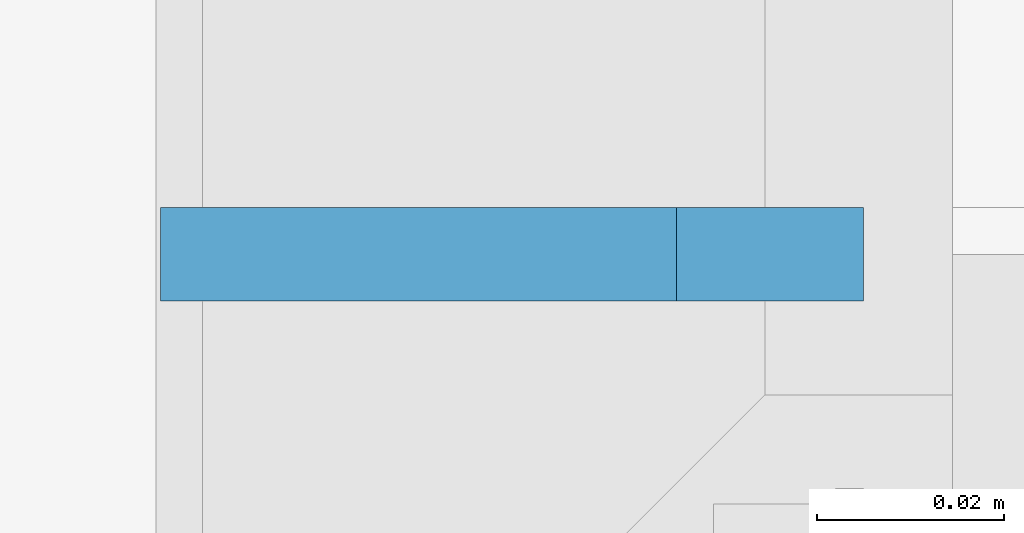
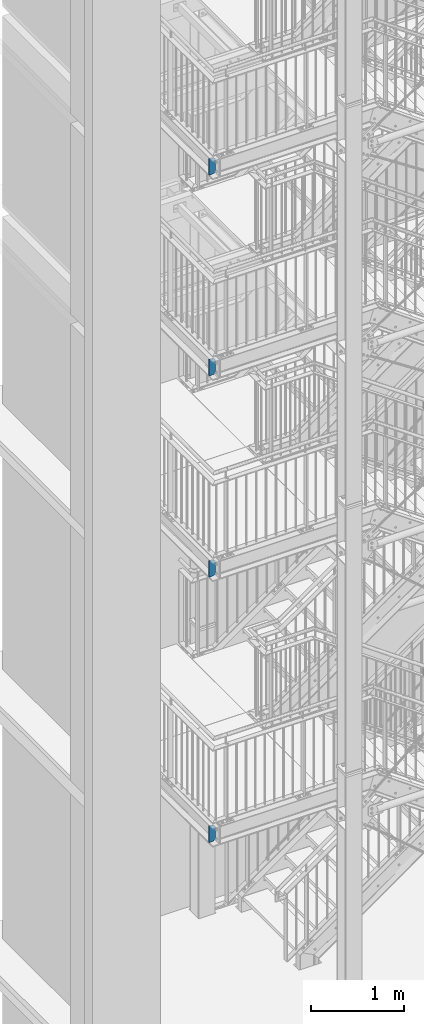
# One storey, part 145 of 825: 4 plates, 8 openings.
"""IFC2X3 building model written with IfcOpenShell, lengths in millimetres."""

from ifc_helpers import new_model, entity, si_unit, converted_unit, frame, origin, origin_with_axes, place, context, project, spatial, polyline, outline, extrude, material, layer, layer_set, element, save


model = new_model("IFC2X3")

# Units and contexts
model_context = context("Model", 3, precision=1e-09, world=origin_with_axes())
ifc_project = project(units=[si_unit("LENGTHUNIT", "METRE", prefix="MILLI"), si_unit("AREAUNIT", "SQUARE_METRE"), si_unit("VOLUMEUNIT", "CUBIC_METRE"), converted_unit("PLANEANGLEUNIT", "DEGREE", entity("IfcPlaneAngleMeasure", 0.01745329), si_unit("PLANEANGLEUNIT", "RADIAN"), dimensions=[0, 0, 0, 0, 0, 0, 0])], contexts=[model_context])

# Site, building, storey
site_placement = place(None, origin_with_axes())
site = spatial("IfcSite", under=ifc_project, at=site_placement, Name="Cnopf'sche Kinderklinik", CompositionType="ELEMENT")
building_placement = place(site_placement, origin_with_axes())
building = spatial("IfcBuilding", under=site, at=building_placement, Name="Struktur 1", CompositionType="ELEMENT")
storey_placement = place(building_placement, origin_with_axes())
storey = spatial("IfcBuildingStorey", under=building, at=storey_placement, Name="Default Storey", CompositionType="ELEMENT", Elevation=0.0)

# Plate, openings
ifc_material = material(Name="S235JR")
ifc_layer = layer(ifc_material, 10.0)
ifc_layer_set = layer_set([ifc_layer], Name="S235JR")
plate_1_placement = place(None, frame((3312.213402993, 4576.736971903, 3829.855161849), z_axis=(0.0, -1.0, 0.0), x_axis=(-0.996815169, 0.0, 0.079746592)))
plate_1 = element("IfcPlate", 1, at=plate_1_placement, inside=storey, material=ifc_layer_set, Name="Stiffener#1", ObjectType="Stiffener#1", context=model_context, shape_type="SweptSolid", body=[
    extrude(outline(polyline([(0.0, 0.0), (75.239625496, 0.0), (57.877952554, 217.017159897), (-16.404697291, 205.05517107), (0.0, 0.0)])), origin_with_axes(), (0.0, 0.0, 1.0), 10.0),
])
opening_1_placement = place(plate_1_placement, frame((0.0, 0.0, -0.01), z_axis=(0.0, 0.0, 1.0), x_axis=(1.0, 0.0, 0.0)))
element("IfcOpeningElement", 2, at=opening_1_placement, cuts=plate_1, ObjectType="Opening", context=model_context, shape_type="SweptSolid", body=[
    extrude(outline(polyline([(-16.404697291, 205.05517107), (-14.809765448, 185.118867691), (3.34092195, 208.23487558), (-16.404697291, 205.05517107)])), origin(), (0.0, 0.0, 1.0), 10.02),
])
opening_2_placement = place(plate_1_placement, frame((0.0, 0.0, -0.01), z_axis=(0.0, 0.0, 1.0), x_axis=(1.0, 0.0, 0.0)))
element("IfcOpeningElement", 3, at=opening_2_placement, cuts=plate_1, ObjectType="Opening", context=model_context, shape_type="SweptSolid", body=[
    extrude(outline(polyline([(0.0, 0.0), (20.0, 0.0), (-1.594931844, 19.936303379), (0.0, 0.0)])), origin(), (0.0, 0.0, 1.0), 10.02),
])

plate_2_placement = place(None, frame((3312.213402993, 4576.736971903, 7302.855161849), z_axis=(0.0, -1.0, 0.0), x_axis=(-0.996815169, 0.0, 0.079746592)))
plate_2 = element("IfcPlate", 4, at=plate_2_placement, inside=storey, material=ifc_layer_set, Name="Stiffener#1", ObjectType="Stiffener#1", context=model_context, shape_type="SweptSolid", body=[
    extrude(outline(polyline([(0.0, 0.0), (75.239625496, 0.0), (57.877952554, 217.017159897), (-16.404697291, 205.05517107), (0.0, 0.0)])), origin_with_axes(), (0.0, 0.0, 1.0), 10.0),
])
opening_3_placement = place(plate_2_placement, frame((0.0, 0.0, -0.01), z_axis=(0.0, 0.0, 1.0), x_axis=(1.0, 0.0, 0.0)))
element("IfcOpeningElement", 5, at=opening_3_placement, cuts=plate_2, ObjectType="Opening", context=model_context, shape_type="SweptSolid", body=[
    extrude(outline(polyline([(-16.404697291, 205.05517107), (-14.809765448, 185.118867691), (3.34092195, 208.23487558), (-16.404697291, 205.05517107)])), origin(), (0.0, 0.0, 1.0), 10.02),
])
opening_4_placement = place(plate_2_placement, frame((0.0, 0.0, -0.01), z_axis=(0.0, 0.0, 1.0), x_axis=(1.0, 0.0, 0.0)))
element("IfcOpeningElement", 6, at=opening_4_placement, cuts=plate_2, ObjectType="Opening", context=model_context, shape_type="SweptSolid", body=[
    extrude(outline(polyline([(0.0, 0.0), (20.0, 0.0), (-1.594931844, 19.936303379), (0.0, 0.0)])), origin(), (0.0, 0.0, 1.0), 10.02),
])

plate_3_placement = place(None, frame((3312.213402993, 4576.736971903, 9934.855161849), z_axis=(0.0, -1.0, 0.0), x_axis=(-0.996815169, 0.0, 0.079746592)))
plate_3 = element("IfcPlate", 7, at=plate_3_placement, inside=storey, material=ifc_layer_set, Name="Stiffener#1", ObjectType="Stiffener#1", context=model_context, shape_type="SweptSolid", body=[
    extrude(outline(polyline([(0.0, 0.0), (75.239625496, 0.0), (57.877952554, 217.017159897), (-16.404697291, 205.05517107), (0.0, 0.0)])), origin_with_axes(), (0.0, 0.0, 1.0), 10.0),
])
opening_5_placement = place(plate_3_placement, frame((0.0, 0.0, -0.01), z_axis=(0.0, 0.0, 1.0), x_axis=(1.0, 0.0, 0.0)))
element("IfcOpeningElement", 8, at=opening_5_placement, cuts=plate_3, ObjectType="Opening", context=model_context, shape_type="SweptSolid", body=[
    extrude(outline(polyline([(-16.404697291, 205.05517107), (-14.809765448, 185.118867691), (3.34092195, 208.23487558), (-16.404697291, 205.05517107)])), origin(), (0.0, 0.0, 1.0), 10.02),
])
opening_6_placement = place(plate_3_placement, frame((0.0, 0.0, -0.01), z_axis=(0.0, 0.0, 1.0), x_axis=(1.0, 0.0, 0.0)))
element("IfcOpeningElement", 9, at=opening_6_placement, cuts=plate_3, ObjectType="Opening", context=model_context, shape_type="SweptSolid", body=[
    extrude(outline(polyline([(0.0, 0.0), (20.0, 0.0), (-1.594931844, 19.936303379), (0.0, 0.0)])), origin(), (0.0, 0.0, 1.0), 10.02),
])

plate_4_placement = place(None, frame((3312.213402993, 4576.736971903, 12561.855161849), z_axis=(0.0, -1.0, 0.0), x_axis=(-0.996815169, 0.0, 0.079746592)))
plate_4 = element("IfcPlate", 10, at=plate_4_placement, inside=storey, material=ifc_layer_set, Name="Stiffener#1", ObjectType="Stiffener#1", context=model_context, shape_type="SweptSolid", body=[
    extrude(outline(polyline([(0.0, 0.0), (75.239625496, 0.0), (57.877952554, 217.017159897), (-16.404697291, 205.05517107), (0.0, 0.0)])), origin_with_axes(), (0.0, 0.0, 1.0), 10.0),
])
opening_7_placement = place(plate_4_placement, frame((0.0, 0.0, -0.01), z_axis=(0.0, 0.0, 1.0), x_axis=(1.0, 0.0, 0.0)))
element("IfcOpeningElement", 11, at=opening_7_placement, cuts=plate_4, ObjectType="Opening", context=model_context, shape_type="SweptSolid", body=[
    extrude(outline(polyline([(-16.404697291, 205.05517107), (-14.809765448, 185.118867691), (3.34092195, 208.23487558), (-16.404697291, 205.05517107)])), origin(), (0.0, 0.0, 1.0), 10.02),
])
opening_8_placement = place(plate_4_placement, frame((0.0, 0.0, -0.01), z_axis=(0.0, 0.0, 1.0), x_axis=(1.0, 0.0, 0.0)))
element("IfcOpeningElement", 12, at=opening_8_placement, cuts=plate_4, ObjectType="Opening", context=model_context, shape_type="SweptSolid", body=[
    extrude(outline(polyline([(0.0, 0.0), (20.0, 0.0), (-1.594931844, 19.936303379), (0.0, 0.0)])), origin(), (0.0, 0.0, 1.0), 10.02),
])

save(model, "model.ifc")
